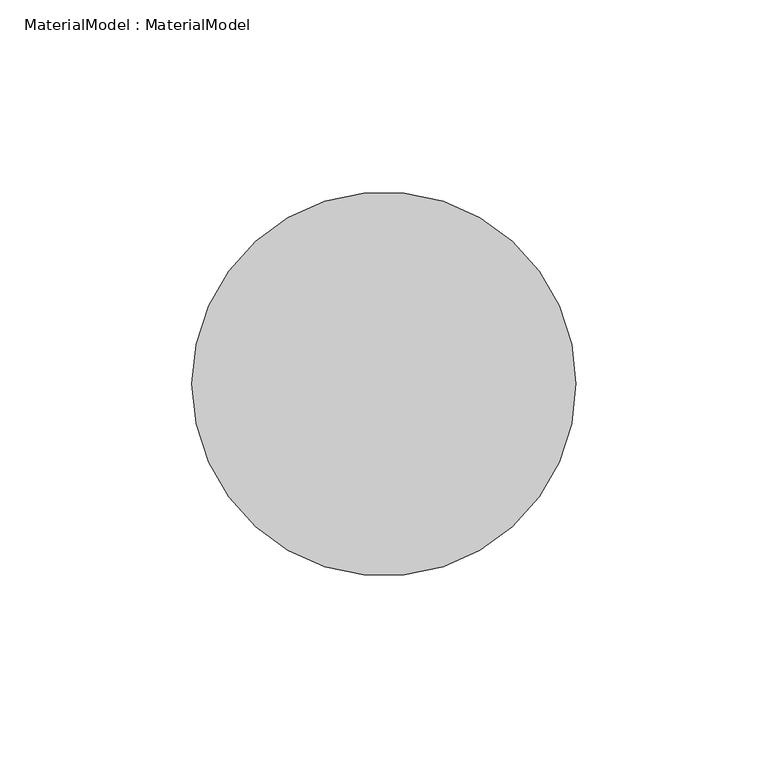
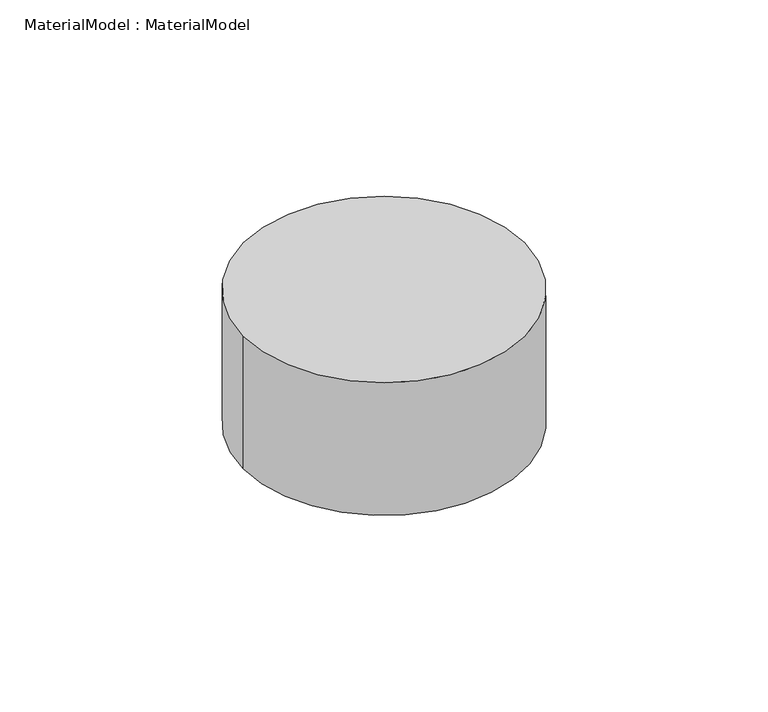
"""IFC4 building model written with IfcOpenShell, lengths in millimetres: proxy geometry, MaterialModel : MaterialModel."""

from ifc_helpers import new_model, si_unit, point, origin, origin_with_axes, origin_2d, place, context, project, spatial, circle_curve, trimmed, segment, composite_curve, outline, extrude, source, transform, mapped, element, save


def materialmodel_materialmodel_02e69005(model_context):
    return source(origin(), model_context, "Body", "SweptSolid", [
        extrude(outline(composite_curve([segment(trimmed(circle_curve(origin_2d(), 50.0), [point((-50.0, 0.0))], [point((50.0, 0.0))], False, "CARTESIAN"), True, "CONTINUOUS"), segment(trimmed(circle_curve(origin_2d(), 50.0), [point((50.0, 0.0))], [point((-50.0, 0.0))], False, "CARTESIAN"), True, "CONTINUOUS")], self_intersect=False)), origin_with_axes(), (0.0, 0.0, 1.0), 50.0),
    ])


if __name__ == "__main__":
    model = new_model("IFC4")
    model_context = context("Model", 3, world=origin())
    ifc_project = project(units=[si_unit("LENGTHUNIT", "METRE", prefix="MILLI")], contexts=[model_context])
    site = spatial("IfcSite", under=ifc_project)
    building = spatial("IfcBuilding", under=site)
    placement = place(None, origin())
    materialmodel_materialmodel_shape = materialmodel_materialmodel_02e69005(model_context)
    element("IfcBuildingElementProxy", 1, Name="MaterialModel : MaterialModel", ObjectType="MaterialModel : MaterialModel", at=placement, inside=building, context=model_context, shape_type="MappedRepresentation", body=[
        mapped(materialmodel_materialmodel_shape, transform((0.0, 0.0, 0.0), x_axis=(1.0, 0.0, 0.0), y_axis=(0.0, 1.0, 0.0), z_axis=(0.0, 0.0, 1.0))),
    ])
    save(model, "model.ifc")
